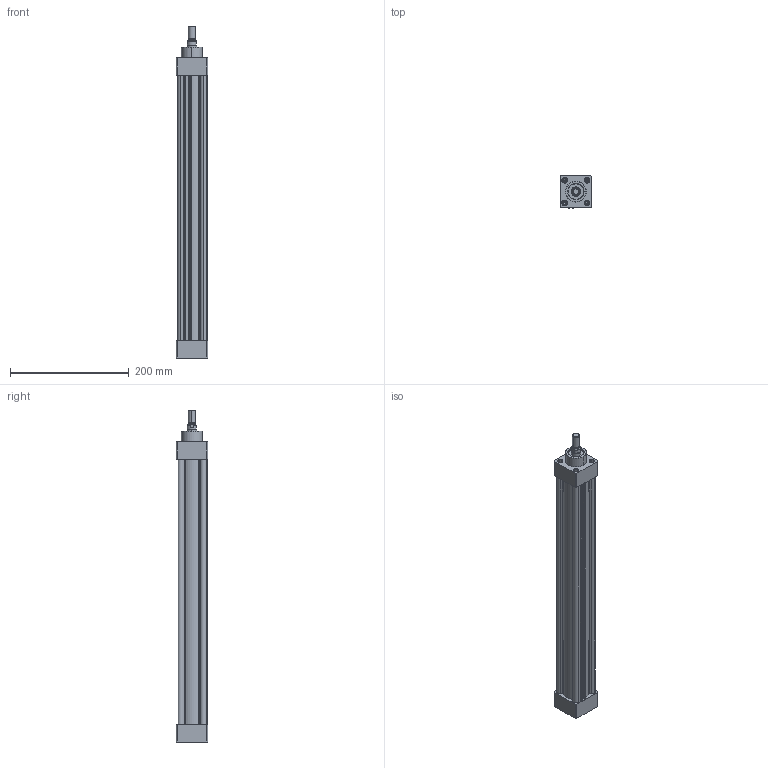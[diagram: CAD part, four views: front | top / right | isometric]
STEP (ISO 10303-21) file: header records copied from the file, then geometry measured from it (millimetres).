
FILE_DESCRIPTION (( 'STEP AP214' ), '1' );
FILE_NAME ('WSI-040-0400 (MDMY).STEP', '2016-07-14T12:54:16', ( 'Hidtek' ), ( '' ), 'SwSTEP 2.0', 'SolidWorks 2016', '' );
FILE_SCHEMA (( 'AUTOMOTIVE_DESIGN' ));
Length unit declared in the file: millimetre
Products named in the file (3): Group1^WSI-040-0400 (MDMY); Group2^WSI-040-0400 (MDMY); WSI-040-0400 (MDMY)
Assembly tree (2 placements, depth 2):
  WSI-040-0400 (MDMY)
    Group1^WSI-040-0400 (MDMY)
    Group2^WSI-040-0400 (MDMY)
Bounding box: 53.4 x 53.4 x 558.8 mm (x, y, z)
Volume: 666273.8 mm3; surface area: 231808.5 mm2
Topology: 12 solids, 12 shells, 398 faces, 962 edges, 612 vertices
Faces by surface type: plane 223, cylinder 113, cone 58, torus 4
Entity records: 12731 total; most frequent: CARTESIAN_POINT 2309, DIRECTION 1966, ORIENTED_EDGE 1892, EDGE_CURVE 946, AXIS2_PLACEMENT_3D 689, VERTEX_POINT 612, LINE 588, VECTOR 588
